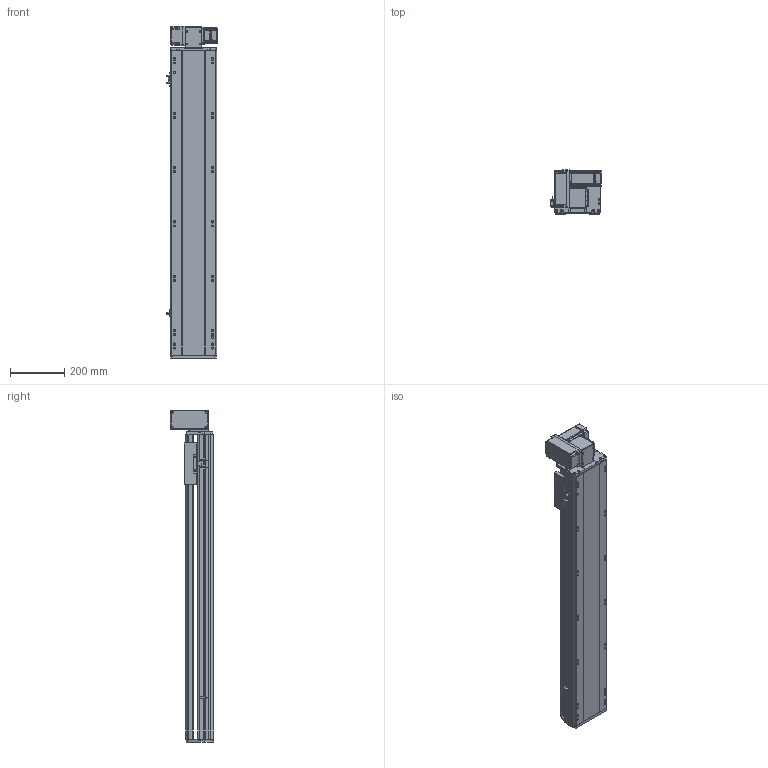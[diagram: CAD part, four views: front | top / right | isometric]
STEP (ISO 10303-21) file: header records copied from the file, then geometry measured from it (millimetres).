
FILE_DESCRIPTION (( 'STEP AP214' ), '1' );
FILE_NAME ('RTB17S-XX-850-LW-M40-C4.STEP', '2025-12-11T07:02:22', ( '' ), ( '' ), 'SwSTEP 2.0', 'SolidWorks 2018', '' );
FILE_SCHEMA (( 'AUTOMOTIVE_DESIGN' ));
Length unit declared in the file: millimetre
Products named in the file (14): RTB17S-L-007奻裔^RTB17S-XX-XX-LW-M40-C4; RTB17S-LW-々湍釱蚾饜-400W^RTB17S-XX-XX-LW-M40-C4; RTB17-R-011菁釱^RTB17S-XX-XX-LW-M40-C4; RTB14-L-017P^RTB17S-LW-々湍釱蚾饜-400W_RTB17S-XX-XX-LW-M40-C4; RTB17S-XX-850-LW-M40-C4; RTB14-L-005P--轴承塑胶压盖^RTB17S-LW-皮带座装配-400W_RTB17S-XX-XX-LW-M40-C4; RTB17S-L-001耜醱啣^RTB17S-XX-XX-LW-M40-C4; 400W侜督萇儂^RTB17S-XX-XX-LW-M40-C4; RTB14-L-008-M20--萇儂啣^RTB17S-LW-々湍釱蚾饜-400W_RTB17S-XX-XX-LW-M40-C4; RTB14-L-018P^RTB17S-LW-々湍釱蚾饜-400W_RTB17S-XX-XX-LW-M40-C4; RTB17S-L-014-T20--々湍釱^RTB17S-LW-々湍釱蚾饜-400W_RTB17S-XX-XX-LW-M40-C4; RTH13-BL-012覜茼え俋离^RTB17S-XX-XX-LW-M40-C4; RTB17S-L-004佪裝蹟譫蟀諉釱^RTB17S-XX-XX-LW-M40-C4; OMRON EE-SX672 传感器^RTB17S-XX-XX-LW-M40-C4
Assembly tree (16 placements, depth 3):
  RTB17S-XX-850-LW-M40-C4
    RTB17-R-011菁釱^RTB17S-XX-XX-LW-M40-C4
    RTB17S-L-007奻裔^RTB17S-XX-XX-LW-M40-C4
    OMRON EE-SX672 传感器^RTB17S-XX-XX-LW-M40-C4  x3
    RTB17S-L-001耜醱啣^RTB17S-XX-XX-LW-M40-C4
    400W侜督萇儂^RTB17S-XX-XX-LW-M40-C4
    RTB17S-L-004佪裝蹟譫蟀諉釱^RTB17S-XX-XX-LW-M40-C4
    RTH13-BL-012覜茼え俋离^RTB17S-XX-XX-LW-M40-C4
    RTB17S-LW-々湍釱蚾饜-400W^RTB17S-XX-XX-LW-M40-C4
      RTB17S-L-014-T20--々湍釱^RTB17S-LW-々湍釱蚾饜-400W_RTB17S-XX-XX-LW-M40-C4
      RTB14-L-005P--轴承塑胶压盖^RTB17S-LW-皮带座装配-400W_RTB17S-XX-XX-LW-M40-C4
      RTB14-L-008-M20--萇儂啣^RTB17S-LW-々湍釱蚾饜-400W_RTB17S-XX-XX-LW-M40-C4
      RTB14-L-017P^RTB17S-LW-々湍釱蚾饜-400W_RTB17S-XX-XX-LW-M40-C4  x2
      RTB14-L-018P^RTB17S-LW-々湍釱蚾饜-400W_RTB17S-XX-XX-LW-M40-C4
Bounding box: 186 x 160.5 x 1222.5 mm (x, y, z)
Volume: 11145888.7 mm3; surface area: 1366469.8 mm2
Topology: 15 solids, 15 shells, 2205 faces, 6087 edges, 3969 vertices
Faces by surface type: plane 1068, cylinder 689, bspline 301, cone 139, torus 8
Entity records: 62633 total; most frequent: CARTESIAN_POINT 17492, ORIENTED_EDGE 9018, DIRECTION 8396, EDGE_CURVE 4509, VERTEX_POINT 2957, AXIS2_PLACEMENT_3D 2887, VECTOR 2622, LINE 2622
